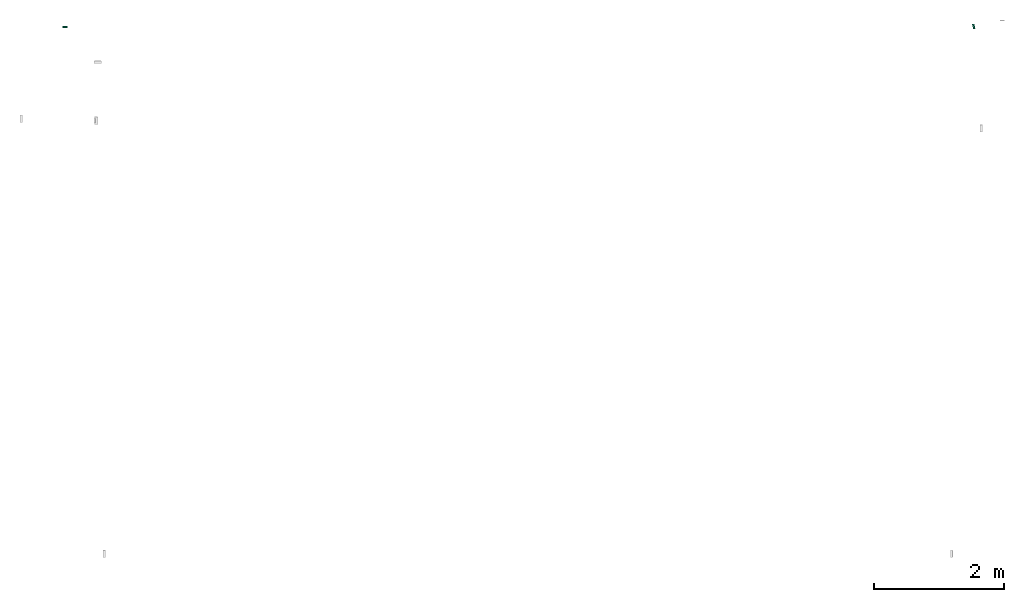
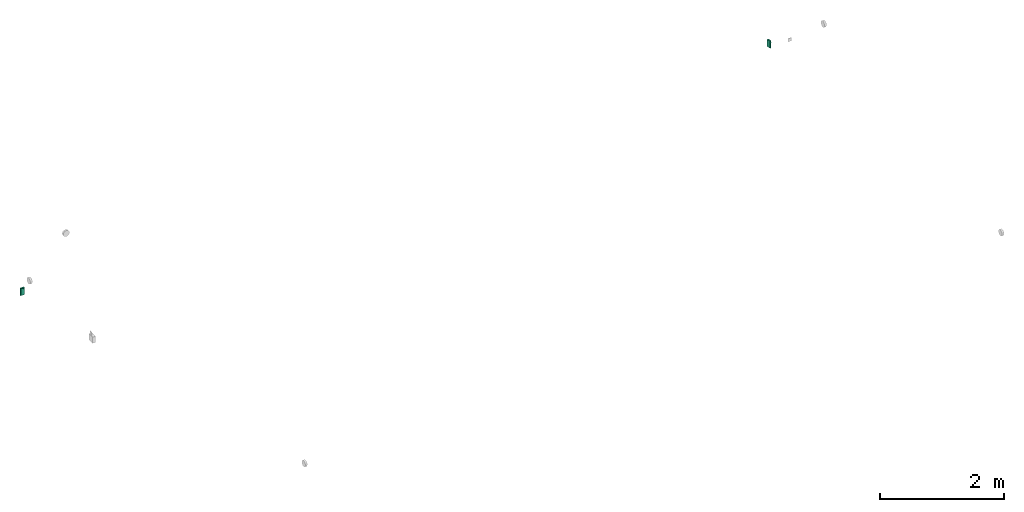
# One storey, part 2 of 5: 2 distribution control elements.
"""IFC2X3 building model written with IfcOpenShell, lengths in millimetres."""

from ifc_helpers import new_model, entity, si_unit, converted_unit, derived_unit, direction, frame, origin_with_axes, place, context, subcontext, project, spatial, open_shell, surface_model, source, transform, mapped, type_object, element, save


model = new_model("IFC2X3")

# Units and contexts
model_context = context("Model", 3, precision=0.01, world=frame((0.0, 4.29681676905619e-09, 0.0)), true_north=direction((4.01073788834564e-13, 1.0)))
plan_context = context("Plan", 3, precision=0.01, world=frame((0.0, 4.29681676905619e-09, 0.0)), true_north=direction((4.01073788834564e-13, 1.0)))
body_context = subcontext(model_context, "Body", "Model", "MODEL_VIEW")
ifc_project = project(units=[converted_unit("PLANEANGLEUNIT", "DEGREE", entity("IfcPositiveLengthMeasure", 0.0174532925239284), si_unit("PLANEANGLEUNIT", "RADIAN"), dimensions=[0, 0, 0, 0, 0, 0, 0]), si_unit("AREAUNIT", "SQUARE_METRE"), si_unit("LENGTHUNIT", "METRE", prefix="MILLI"), si_unit("MASSUNIT", "GRAM", prefix="KILO"), si_unit("POWERUNIT", "WATT"), si_unit("PRESSUREUNIT", "PASCAL", prefix="KILO"), si_unit("FORCEUNIT", "NEWTON", prefix="KILO"), si_unit("ELECTRICVOLTAGEUNIT", "VOLT"), si_unit("ELECTRICCURRENTUNIT", "AMPERE"), si_unit("THERMODYNAMICTEMPERATUREUNIT", "DEGREE_CELSIUS"), si_unit("TIMEUNIT", "SECOND"), si_unit("VOLUMEUNIT", "CUBIC_METRE"), derived_unit("LINEARVELOCITYUNIT", [(si_unit("LENGTHUNIT", "METRE"), 1), (si_unit("TIMEUNIT", "SECOND"), -1)]), derived_unit("VOLUMETRICFLOWRATEUNIT", [(si_unit("VOLUMEUNIT", "CUBIC_METRE"), 1), (si_unit("TIMEUNIT", "SECOND"), -1)]), derived_unit("THERMALTRANSMITTANCEUNIT", [(si_unit("POWERUNIT", "WATT"), 1), (si_unit("THERMODYNAMICTEMPERATUREUNIT", "KELVIN"), -1), (si_unit("AREAUNIT", "SQUARE_METRE"), -1)]), derived_unit("SOUNDPRESSUREUNIT", [(si_unit("PRESSUREUNIT", "PASCAL"), 1)])], contexts=[model_context, plan_context])

# Site, building, storey
site_placement = place(None, frame((0.0, -4.29681676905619e-09, 0.0), z_axis=(0.0, 0.0, 1.0), x_axis=(1.0, 0.0, 0.0)))
site = spatial("IfcSite", under=ifc_project, at=site_placement, Name="ENGM", CompositionType="ELEMENT")
building_placement = place(site_placement, frame((0.0, 4.29681676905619e-09, 0.0), z_axis=(0.0, 0.0, 1.0), x_axis=(1.0, 0.0, 0.0)))
building = spatial("IfcBuilding", under=site, at=building_placement, Name="TI", CompositionType="ELEMENT")
storey_placement = place(building_placement, frame((0.0, 0.0, 210900.0), z_axis=(0.0, 0.0, 1.0), x_axis=(1.0, 0.0, 0.0)))
storey = spatial("IfcBuildingStorey", under=building, at=storey_placement, Name="Nivå F", CompositionType="ELEMENT", Elevation=210900.0)

# Distribution control elements
alarm_type = type_object("IfcAlarmType", Name="SECURITY ALARM 3", PredefinedType="NOTDEFINED")
shared_shape = source(origin_with_axes(), body_context, "Body", "SurfaceModel", [
    surface_model("IfcShellBasedSurfaceModel", [(14.0, 25.0, 39.91502), (-14.0, 25.0, 39.91502), (14.0, 25.0, 38.91503), (-14.0, 25.0, 38.91503), (14.0, 25.2, 38.91503), (-14.0, 25.2, 38.91503), (14.0, 25.2, 39.91502), (-14.0, 25.2, 39.91502), (14.0, 25.0, 41.92565), (-14.0, 25.0, 41.92565), (14.0, 25.0, 40.92565), (-14.0, 25.0, 40.92565), (14.0, 25.2, 40.92565), (-14.0, 25.2, 40.92565), (14.0, 25.2, 41.92565), (-14.0, 25.2, 41.92565), (14.0, 25.0, 43.93627), (-14.0, 25.0, 43.93627), (14.0, 25.0, 42.93627), (-14.0, 25.0, 42.93627), (14.0, 25.2, 42.93627), (-14.0, 25.2, 42.93627), (14.0, 25.2, 43.93627), (-14.0, 25.2, 43.93627), (14.0, 25.0, 45.94689), (-14.0, 25.0, 45.94689), (14.0, 25.0, 44.94689), (-14.0, 25.0, 44.94689), (14.0, 25.2, 44.94689), (-14.0, 25.2, 44.94689), (14.0, 25.2, 45.94689), (-14.0, 25.2, 45.94689), (14.0, 25.0, 47.95751), (-14.0, 25.0, 47.95751), (14.0, 25.0, 46.95751), (-14.0, 25.0, 46.95751), (14.0, 25.2, 46.95751), (-14.0, 25.2, 46.95751), (14.0, 25.2, 47.95751), (-14.0, 25.2, 47.95751), (14.0, 25.0, 49.96813), (-14.0, 25.0, 49.96813), (14.0, 25.0, 48.96813), (-14.0, 25.0, 48.96813), (14.0, 25.2, 48.96813), (-14.0, 25.2, 48.96813), (14.0, 25.2, 49.96813), (-14.0, 25.2, 49.96813), (14.0, 25.0, 51.97875), (-14.0, 25.0, 51.97875), (14.0, 25.0, 50.97876), (-14.0, 25.0, 50.97876), (14.0, 25.2, 50.97876), (-14.0, 25.2, 50.97876), (14.0, 25.2, 51.97875), (-14.0, 25.2, 51.97875), (14.0, 25.0, 53.98938), (-14.0, 25.0, 53.98938), (14.0, 25.0, 52.98938), (-14.0, 25.0, 52.98938), (14.0, 25.2, 52.98938), (-14.0, 25.2, 52.98938), (14.0, 25.2, 53.98938), (-14.0, 25.2, 53.98938), (14.0, 25.0, 56.0), (-14.0, 25.0, 56.0), (14.0, 25.0, 55.0), (-14.0, 25.0, 55.0), (14.0, 25.2, 55.0), (-14.0, 25.2, 55.0), (14.0, 25.2, 56.0), (-14.0, 25.2, 56.0), (-35.0, 0.0, 70.0), (-35.0, 0.0, -70.0), (35.0, 0.0, -70.0), (35.0, 0.0, 70.0), (35.0, 25.0, 70.0), (35.0, 25.0, -70.0), (-35.0, 25.0, -70.0), (-35.0, 25.0, 70.0), (-21.5, 27.0, -20.2), (-21.5, 27.0, -12.2), (-6.5, 27.0, -20.2), (-6.5, 27.0, -12.2), (-6.5, 25.0, -20.2), (-6.5, 25.0, -12.2), (-21.5, 25.0, -20.2), (-21.5, 25.0, -12.2), (-7.50481, 25.0, -30.45), (-8.6967, 25.0, -39.5033), (-6.75556, 25.0, -32.25886), (-12.05886, 25.0, -26.95556), (-8.6967, 25.0, -28.8967), (-15.94114, 25.0, -41.44445), (-10.25, 25.0, -27.70481), (-6.75556, 25.0, -36.14114), (-7.50481, 25.0, -37.95), (-6.5, 25.0, -34.2), (-12.05886, 25.0, -41.44445), (-10.25, 25.0, -40.69519), (-14.0, 25.0, -41.7), (-14.0, 25.0, -26.7), (-15.94114, 25.0, -26.95556), (-17.75, 25.0, -27.70481), (-19.3033, 25.0, -28.8967), (-21.24444, 25.0, -32.25886), (-20.49519, 25.0, -30.45), (-21.5, 25.0, -34.2), (-19.3033, 25.0, -39.5033), (-17.75, 25.0, -40.69519), (-21.24444, 25.0, -36.14114), (-20.49519, 25.0, -37.95), (-21.24444, 27.0, -32.25886), (-21.24444, 27.0, -36.14114), (-21.5, 27.0, -34.2), (-19.3033, 27.0, -28.8967), (-20.49519, 27.0, -30.45), (-17.75, 27.0, -27.70481), (-15.94114, 27.0, -26.95556), (-8.6967, 27.0, -39.5033), (-15.94114, 27.0, -41.44445), (-19.3033, 27.0, -39.5033), (-20.49519, 27.0, -37.95), (-17.75, 27.0, -40.69519), (-14.0, 27.0, -41.7), (-12.05886, 27.0, -26.95556), (-7.50481, 27.0, -30.45), (-10.25, 27.0, -27.70481), (-8.6967, 27.0, -28.8967), (-6.75556, 27.0, -32.25886), (-12.05886, 27.0, -41.44445), (-10.25, 27.0, -40.69519), (-6.75556, 27.0, -36.14114), (-7.50481, 27.0, -37.95), (-6.5, 27.0, -34.2), (-14.0, 27.0, -26.7), (35.0, 25.2, -49.0), (-35.0, 25.2, -49.0), (-35.0, 25.2, -48.2), (35.0, 25.2, -48.2), (35.0, 25.0, -48.2), (-35.0, 25.0, -48.2), (-35.0, 25.0, -49.0), (35.0, 25.0, -49.0), (28.0, 25.0, 16.0), (-28.0, 25.0, 16.0), (-28.0, 25.0, 2.0), (28.0, 25.0, 2.0), (28.0, 25.2, 2.0), (-28.0, 25.2, 2.0), (-28.0, 25.2, 16.0), (28.0, 25.2, 16.0), (35.0, 25.0, 28.0), (-35.0, 25.0, 28.0), (-35.0, 25.0, 27.2), (35.0, 25.0, 27.2), (35.0, 25.2, 27.2), (-35.0, 25.2, 27.2), (-35.0, 25.2, 28.0), (35.0, 25.2, 28.0)], [open_shell([[[0, 1, 2]], [[3, 2, 1]], [[4, 5, 6]], [[7, 6, 5]], [[3, 1, 7]], [[7, 5, 3]], [[2, 3, 5]], [[5, 4, 2]], [[0, 2, 4]], [[4, 6, 0]], [[1, 0, 6]], [[6, 7, 1]], [[8, 9, 10]], [[11, 10, 9]], [[12, 13, 14]], [[15, 14, 13]], [[11, 9, 15]], [[15, 13, 11]], [[10, 11, 13]], [[13, 12, 10]], [[8, 10, 12]], [[12, 14, 8]], [[9, 8, 14]], [[14, 15, 9]], [[16, 17, 18]], [[19, 18, 17]], [[20, 21, 22]], [[23, 22, 21]], [[19, 17, 23]], [[23, 21, 19]], [[18, 19, 21]], [[21, 20, 18]], [[16, 18, 20]], [[20, 22, 16]], [[17, 16, 22]], [[22, 23, 17]], [[24, 25, 26]], [[27, 26, 25]], [[28, 29, 30]], [[31, 30, 29]], [[27, 25, 31]], [[31, 29, 27]], [[26, 27, 29]], [[29, 28, 26]], [[24, 26, 28]], [[28, 30, 24]], [[25, 24, 30]], [[30, 31, 25]], [[32, 33, 34]], [[35, 34, 33]], [[36, 37, 38]], [[39, 38, 37]], [[35, 33, 39]], [[39, 37, 35]], [[34, 35, 37]], [[37, 36, 34]], [[32, 34, 36]], [[36, 38, 32]], [[33, 32, 38]], [[38, 39, 33]], [[40, 41, 42]], [[43, 42, 41]], [[44, 45, 46]], [[47, 46, 45]], [[43, 41, 47]], [[47, 45, 43]], [[42, 43, 45]], [[45, 44, 42]], [[40, 42, 44]], [[44, 46, 40]], [[41, 40, 46]], [[46, 47, 41]], [[48, 49, 50]], [[51, 50, 49]], [[52, 53, 54]], [[55, 54, 53]], [[51, 49, 55]], [[55, 53, 51]], [[50, 51, 53]], [[53, 52, 50]], [[48, 50, 52]], [[52, 54, 48]], [[49, 48, 54]], [[54, 55, 49]], [[56, 57, 58]], [[59, 58, 57]], [[60, 61, 62]], [[63, 62, 61]], [[59, 57, 63]], [[63, 61, 59]], [[58, 59, 61]], [[61, 60, 58]], [[56, 58, 60]], [[60, 62, 56]], [[57, 56, 62]], [[62, 63, 57]], [[64, 65, 66]], [[67, 66, 65]], [[68, 69, 70]], [[71, 70, 69]], [[67, 65, 71]], [[71, 69, 67]], [[66, 67, 69]], [[69, 68, 66]], [[64, 66, 68]], [[68, 70, 64]], [[65, 64, 70]], [[70, 71, 65]], [[72, 73, 74]], [[74, 75, 72]], [[76, 77, 78]], [[78, 79, 76]], [[74, 73, 78]], [[78, 77, 74]], [[75, 74, 77]], [[77, 76, 75]], [[72, 75, 76]], [[76, 79, 72]], [[73, 72, 78]], [[79, 78, 72]], [[80, 81, 82]], [[83, 82, 81]], [[84, 85, 86]], [[87, 86, 85]], [[83, 81, 85]], [[87, 85, 81]], [[82, 83, 85]], [[85, 84, 82]], [[80, 82, 86]], [[84, 86, 82]], [[81, 80, 87]], [[86, 87, 80]], [[88, 89, 90]], [[91, 88, 92]], [[89, 88, 93]], [[91, 92, 94]], [[93, 88, 91]], [[95, 89, 96]], [[89, 95, 97]], [[89, 98, 99]], [[89, 97, 90]], [[89, 100, 98]], [[91, 101, 102]], [[102, 103, 104]], [[91, 104, 93]], [[93, 104, 105]], [[105, 104, 106]], [[93, 105, 107]], [[93, 108, 109]], [[100, 89, 93]], [[108, 110, 111]], [[108, 93, 107]], [[110, 108, 107]], [[91, 102, 104]], [[112, 113, 114]], [[115, 112, 116]], [[115, 117, 118]], [[112, 115, 119]], [[119, 120, 112]], [[113, 121, 122]], [[113, 112, 121]], [[121, 120, 123]], [[112, 120, 121]], [[120, 119, 124]], [[118, 119, 115]], [[119, 118, 125]], [[126, 125, 127]], [[119, 125, 126]], [[126, 127, 128]], [[119, 126, 129]], [[130, 119, 131]], [[124, 119, 130]], [[119, 132, 133]], [[132, 119, 134]], [[129, 134, 119]], [[118, 135, 125]], [[98, 124, 130]], [[131, 99, 130]], [[96, 119, 133]], [[119, 89, 131]], [[132, 95, 133]], [[130, 99, 98]], [[98, 100, 124]], [[95, 96, 133]], [[89, 119, 96]], [[89, 99, 131]], [[97, 95, 132]], [[132, 134, 97]], [[129, 90, 134]], [[126, 88, 129]], [[94, 128, 127]], [[128, 92, 126]], [[127, 125, 91]], [[126, 92, 88]], [[88, 90, 129]], [[101, 91, 125]], [[94, 127, 91]], [[94, 92, 128]], [[135, 101, 125]], [[134, 90, 97]], [[118, 102, 135]], [[117, 103, 118]], [[106, 115, 116]], [[117, 115, 104]], [[105, 116, 112]], [[118, 103, 102]], [[102, 101, 135]], [[105, 106, 116]], [[104, 115, 106]], [[104, 103, 117]], [[107, 105, 112]], [[112, 114, 107]], [[113, 110, 114]], [[122, 111, 113]], [[109, 121, 123]], [[122, 121, 108]], [[93, 123, 120]], [[122, 108, 111]], [[111, 110, 113]], [[100, 93, 120]], [[109, 123, 93]], [[109, 108, 121]], [[124, 100, 120]], [[114, 110, 107]], [[136, 137, 138]], [[138, 139, 136]], [[140, 141, 142]], [[142, 143, 140]], [[138, 137, 142]], [[142, 141, 138]], [[139, 138, 140]], [[141, 140, 138]], [[136, 139, 140]], [[140, 143, 136]], [[137, 136, 142]], [[143, 142, 136]], [[144, 145, 146]], [[146, 147, 144]], [[148, 149, 150]], [[150, 151, 148]], [[146, 145, 150]], [[150, 149, 146]], [[147, 146, 148]], [[149, 148, 146]], [[144, 147, 148]], [[148, 151, 144]], [[145, 144, 150]], [[151, 150, 144]], [[152, 153, 154]], [[154, 155, 152]], [[156, 157, 158]], [[158, 159, 156]], [[154, 153, 158]], [[158, 157, 154]], [[155, 154, 156]], [[157, 156, 154]], [[152, 155, 156]], [[156, 159, 152]], [[153, 152, 158]], [[159, 158, 152]]])]),
])
for number, where, z_axis, x_axis, name in (
    (1, (585271.45079, 578072.5, 1000.0), (0.0, 0.0, 1.0), (-1.0, 0.0, 0.0), "SECURITY ALARM 3"),
    (2, (599190.07283, 578065.9239, 1000.0), (0.0, 0.0, 1.0), (0.258818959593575, -0.965925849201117, 0.0), "SECURITY ALARM 3"),
):
    element("IfcDistributionControlElement", number, at=place(storey_placement, frame(where, z_axis=z_axis, x_axis=x_axis)), inside=storey, type_object=alarm_type, Name=name, context=body_context, shape_type="MappedRepresentation", body=[
        mapped(shared_shape, transform((0.0, 0.0, 0.0), scale=1.0)),
    ])

save(model, "model.ifc")
